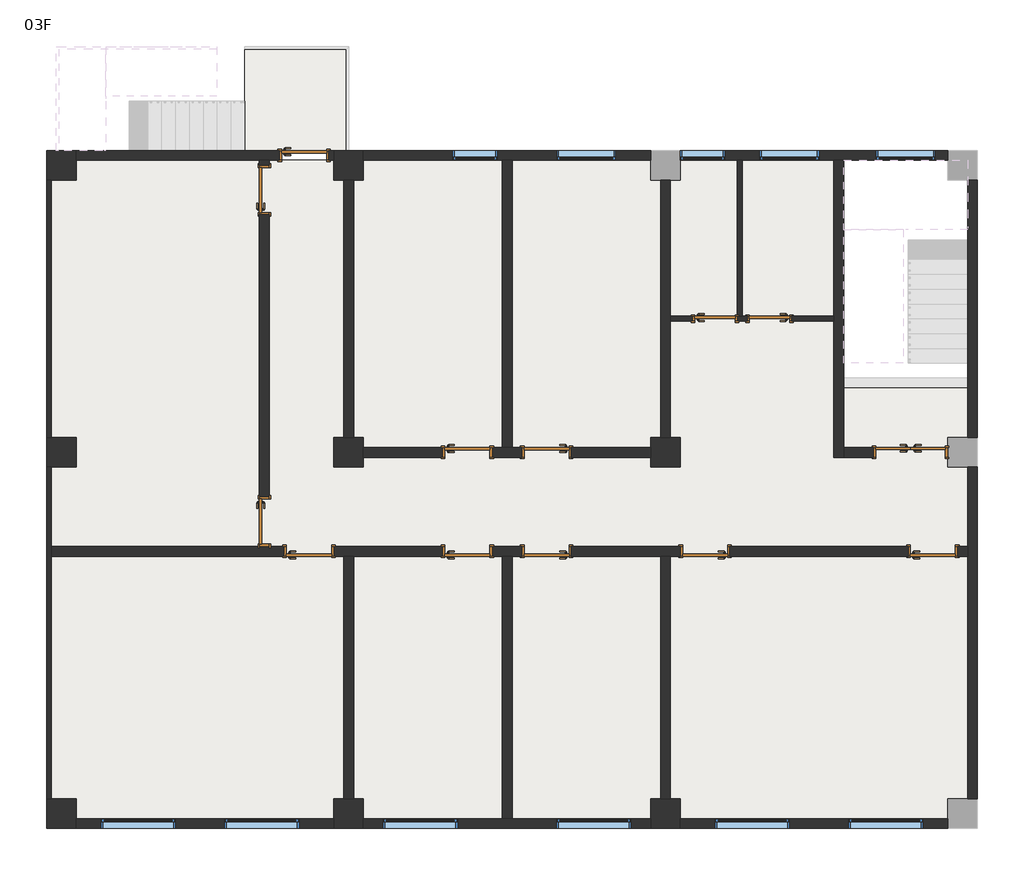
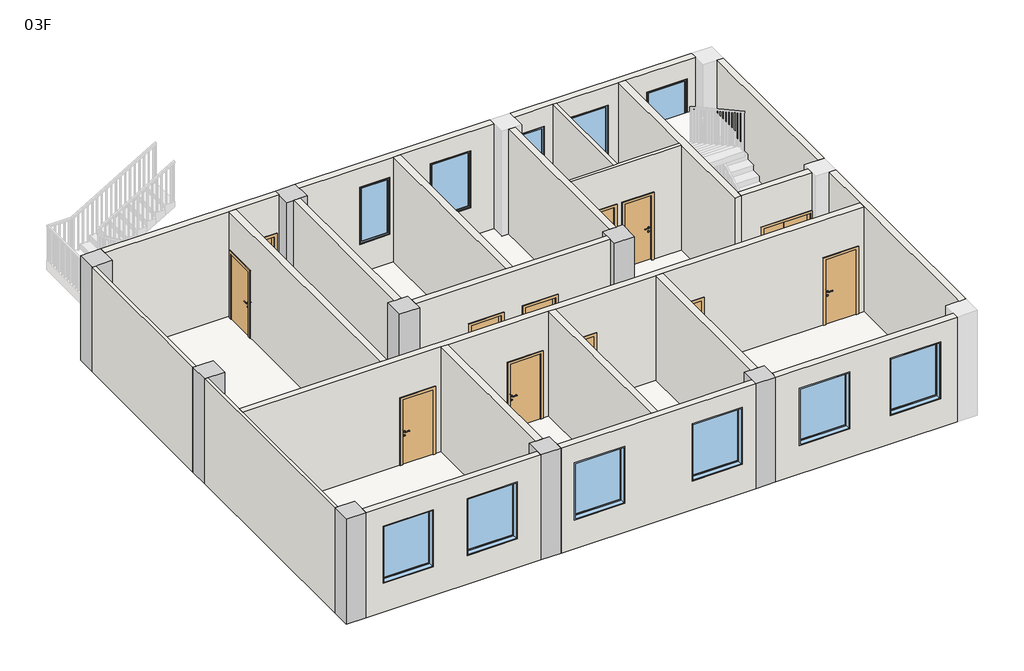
# One storey, part 1 of 3: 23 walls, 13 doors, 11 windows, 8 columns, 2 slabs.
"""IFC4 building model written with IfcOpenShell, lengths in millimetres."""

from ifc_helpers import new_model, si_unit, frame, origin, place, context, project, spatial, polyline, outline, extrude, faceted_brep, transform, mapped, element, save
from components import column_600_x_600mm_15ef50ab, m2_692f9d9b, m3_ab7da2a0, m3_c9bb6752, m4_a67fd2dd, m4_12d08f6f, c2_16925ed6, c4_3407baf4, c6_982aaf11

model = new_model("IFC4")

# Units and contexts
model_context = context("Model", 3, world=origin())
ifc_project = project(units=[si_unit("LENGTHUNIT", "METRE", prefix="MILLI")], contexts=[model_context])

# Site, building, storey
site = spatial("IfcSite", under=ifc_project)
building = spatial("IfcBuilding", under=site)
storey = spatial("IfcBuildingStorey", under=building, Name="03F", Elevation=7200.0)

# Columns
placement = place(None, origin())
column_600_x_600mm_shape = column_600_x_600mm_15ef50ab(model_context)
element("IfcColumn", 1, ObjectType="混凝土 - 矩形 - 柱 : 600 x 600mm", at=placement, inside=storey, context=model_context, shape_type="MappedRepresentation", body=[
    mapped(column_600_x_600mm_shape, transform((200.0, 13300.0, 0.0), x_axis=(1.0, 0.0, 0.0), y_axis=(0.0, 1.0, 0.0), z_axis=(0.0, 0.0, 1.0))),
])
element("IfcColumn", 2, ObjectType="混凝土 - 矩形 - 柱 : 600 x 600mm", at=placement, inside=storey, context=model_context, shape_type="MappedRepresentation", body=[
    mapped(column_600_x_600mm_shape, transform((6000.0, 13300.0, 0.0), x_axis=(1.0, 0.0, 0.0), y_axis=(0.0, 1.0, 0.0), z_axis=(0.0, 0.0, 1.0))),
])
element("IfcColumn", 3, ObjectType="混凝土 - 矩形 - 柱 : 600 x 600mm", at=placement, inside=storey, context=model_context, shape_type="MappedRepresentation", body=[
    mapped(column_600_x_600mm_shape, transform((200.0, 7500.0, 0.0), x_axis=(1.0, 0.0, 0.0), y_axis=(0.0, 1.0, 0.0), z_axis=(0.0, 0.0, 1.0))),
])
element("IfcColumn", 4, ObjectType="混凝土 - 矩形 - 柱 : 600 x 600mm", at=placement, inside=storey, context=model_context, shape_type="MappedRepresentation", body=[
    mapped(column_600_x_600mm_shape, transform((6000.0, 7500.0, 0.0), x_axis=(1.0, 0.0, 0.0), y_axis=(0.0, 1.0, 0.0), z_axis=(0.0, 0.0, 1.0))),
])
element("IfcColumn", 5, ObjectType="混凝土 - 矩形 - 柱 : 600 x 600mm", at=placement, inside=storey, context=model_context, shape_type="MappedRepresentation", body=[
    mapped(column_600_x_600mm_shape, transform((12400.0, 7500.0, 0.0), x_axis=(1.0, 0.0, 0.0), y_axis=(0.0, 1.0, 0.0), z_axis=(0.0, 0.0, 1.0))),
])
element("IfcColumn", 6, ObjectType="混凝土 - 矩形 - 柱 : 600 x 600mm", at=placement, inside=storey, context=model_context, shape_type="MappedRepresentation", body=[
    mapped(column_600_x_600mm_shape, transform((200.0, 200.0, 0.0), x_axis=(1.0, 0.0, 0.0), y_axis=(0.0, 1.0, 0.0), z_axis=(0.0, 0.0, 1.0))),
])
element("IfcColumn", 7, ObjectType="混凝土 - 矩形 - 柱 : 600 x 600mm", at=placement, inside=storey, context=model_context, shape_type="MappedRepresentation", body=[
    mapped(column_600_x_600mm_shape, transform((6000.0, 200.0, 0.0), x_axis=(1.0, 0.0, 0.0), y_axis=(0.0, 1.0, 0.0), z_axis=(0.0, 0.0, 1.0))),
])
element("IfcColumn", 8, ObjectType="混凝土 - 矩形 - 柱 : 600 x 600mm", at=placement, inside=storey, context=model_context, shape_type="MappedRepresentation", body=[
    mapped(column_600_x_600mm_shape, transform((12400.0, 200.0, 0.0), x_axis=(1.0, 0.0, 0.0), y_axis=(0.0, 1.0, 0.0), z_axis=(0.0, 0.0, 1.0))),
])

# Doors
m2_shape = m2_692f9d9b(model_context)
element("IfcDoor", 9, ObjectType="双面嵌板木门 1 : M2", at=placement, inside=storey, context=model_context, shape_type="MappedRepresentation", body=[
    mapped(m2_shape, transform((17350.0, 7500.0, 7200.0), x_axis=(1.0, 0.0, 0.0), y_axis=(0.0, 1.0, 0.0), z_axis=(0.0, 0.0, 1.0))),
])
m3_shape = m3_ab7da2a0(model_context)
element("IfcDoor", 10, ObjectType="单嵌板木门 1 : M3", at=placement, inside=storey, context=model_context, shape_type="MappedRepresentation", body=[
    mapped(m3_shape, transform((17800.0, 5500.0, 7200.0), x_axis=(1.0, 0.0, 0.0), y_axis=(0.0, 1.0, 0.0), z_axis=(0.0, 0.0, 1.0))),
])
element("IfcDoor", 11, ObjectType="单嵌板木门 1 : M3", at=placement, inside=storey, context=model_context, shape_type="MappedRepresentation", body=[
    mapped(m3_shape, transform((8400.0, 5500.0, 7200.0), x_axis=(1.0, 0.0, 0.0), y_axis=(0.0, 1.0, 0.0), z_axis=(0.0, 0.0, 1.0))),
])
element("IfcDoor", 12, ObjectType="单嵌板木门 1 : M3", at=placement, inside=storey, context=model_context, shape_type="MappedRepresentation", body=[
    mapped(m3_shape, transform((4300.0, 6100.0, 7200.0), x_axis=(0.0, -1.0, 0.0), y_axis=(1.0, 0.0, 0.0), z_axis=(0.0, 0.0, 1.0))),
])
element("IfcDoor", 13, ObjectType="单嵌板木门 1 : M3", at=placement, inside=storey, context=model_context, shape_type="MappedRepresentation", body=[
    mapped(m3_shape, transform((5200.0, 5500.0, 7200.0), x_axis=(1.0, 0.0, 0.0), y_axis=(0.0, 1.0, 0.0), z_axis=(0.0, 0.0, 1.0))),
])
element("IfcDoor", 14, ObjectType="单嵌板木门 1 : M3", at=placement, inside=storey, context=model_context, shape_type="MappedRepresentation", body=[
    mapped(m3_shape, transform((10000.0, 7500.0, 7200.0), x_axis=(-1.0, 0.0, 0.0), y_axis=(0.0, -1.0, 0.0), z_axis=(0.0, 0.0, 1.0))),
])
m3_2_shape = m3_c9bb6752(model_context)
element("IfcDoor", 15, ObjectType="单嵌板木门 1 : M3", at=placement, inside=storey, context=model_context, shape_type="MappedRepresentation", body=[
    mapped(m3_2_shape, transform((13200.0, 5500.0, 7200.0), x_axis=(-1.0, 0.0, 0.0), y_axis=(0.0, -1.0, 0.0), z_axis=(0.0, 0.0, 1.0))),
])
element("IfcDoor", 16, ObjectType="单嵌板木门 1 : M3", at=placement, inside=storey, context=model_context, shape_type="MappedRepresentation", body=[
    mapped(m3_2_shape, transform((10000.0, 5500.0, 7200.0), x_axis=(-1.0, 0.0, 0.0), y_axis=(0.0, -1.0, 0.0), z_axis=(0.0, 0.0, 1.0))),
])
element("IfcDoor", 17, ObjectType="单嵌板木门 1 : M3", at=placement, inside=storey, context=model_context, shape_type="MappedRepresentation", body=[
    mapped(m3_2_shape, transform((5100.0, 13500.0, 7200.0), x_axis=(1.0, 0.0, 0.0), y_axis=(0.0, 1.0, 0.0), z_axis=(0.0, 0.0, 1.0))),
])
element("IfcDoor", 18, ObjectType="单嵌板木门 1 : M3", at=placement, inside=storey, context=model_context, shape_type="MappedRepresentation", body=[
    mapped(m3_2_shape, transform((4300.0, 12800.0, 7200.0), x_axis=(0.0, 1.0, 0.0), y_axis=(-1.0, 0.0, 0.0), z_axis=(0.0, 0.0, 1.0))),
])
element("IfcDoor", 19, ObjectType="单嵌板木门 1 : M3", at=placement, inside=storey, context=model_context, shape_type="MappedRepresentation", body=[
    mapped(m3_2_shape, transform((8400.0, 7500.0, 7200.0), x_axis=(1.0, 0.0, 0.0), y_axis=(0.0, 1.0, 0.0), z_axis=(0.0, 0.0, 1.0))),
])
m4_shape = m4_a67fd2dd(model_context)
element("IfcDoor", 20, ObjectType="单嵌板木门 1 : M4", at=placement, inside=storey, context=model_context, shape_type="MappedRepresentation", body=[
    mapped(m4_shape, transform((13400.0, 10200.0, 7200.0), x_axis=(1.0, 0.0, 0.0), y_axis=(0.0, 1.0, 0.0), z_axis=(0.0, 0.0, 1.0))),
])
m4_2_shape = m4_12d08f6f(model_context)
element("IfcDoor", 21, ObjectType="单嵌板木门 1 : M4", at=placement, inside=storey, context=model_context, shape_type="MappedRepresentation", body=[
    mapped(m4_2_shape, transform((14500.0, 10200.0, 7200.0), x_axis=(-1.0, 0.0, 0.0), y_axis=(0.0, -1.0, 0.0), z_axis=(0.0, 0.0, 1.0))),
])

# Slabs
element("IfcSlab", 22, ObjectType="100mm厚钢筋混凝土", at=placement, inside=storey, context=model_context, shape_type="SweptSolid", body=[
    extrude(outline(polyline([(15800.0, 13400.0), (15800.0, 8800.0), (18500.0, 8800.0), (18500.0, 100.0), (0.0, 100.0), (0.0, 13400.0), (15800.0, 13400.0)])), frame((0.0, 0.0, 7100.0), z_axis=(0.0, 0.0, 1.0), x_axis=(1.0, 0.0, 0.0)), (0.0, 0.0, 1.0), 100.0),
])
element("IfcSlab", 23, ObjectType="常规 - 165mm", at=placement, inside=storey, context=model_context, shape_type="SweptSolid", body=[
    extrude(outline(polyline([(3900.0, 13600.0), (3900.0, 15700.0), (6000.0, 15700.0), (6000.0, 13600.0), (3900.0, 13600.0)])), frame((0.0, 0.0, 7035.0), z_axis=(0.0, 0.0, 1.0), x_axis=(1.0, 0.0, 0.0)), (0.0, 0.0, 1.0), 165.0),
])

# Walls
element("IfcWall", 24, ObjectType="200mm厚加气混凝土砌块", at=placement, inside=storey, context=model_context, shape_type="Brep", body=[
    faceted_brep([(5700.0, 13400.0, 7200.0), (5700.0, 13400.0, 10500.0), (4400.0, 13400.0, 10500.0), (4200.0, 13400.0, 10500.0), (500.0, 13400.0, 10500.0), (500.0, 13400.0, 7200.0), (4200.0, 13400.0, 7200.0), (4400.0, 13400.0, 7200.0), (4600.0, 13400.0, 7200.0), (4600.0, 13400.0, 9300.0), (5600.0, 13400.0, 9300.0), (5600.0, 13400.0, 7200.0), (5700.0, 13600.0, 10500.0), (5700.0, 13600.0, 7200.0), (5600.0, 13600.0, 7200.0), (5600.0, 13600.0, 9300.0), (4600.0, 13600.0, 9300.0), (4600.0, 13600.0, 7200.0), (500.0, 13600.0, 7200.0), (500.0, 13600.0, 10500.0)], [[[0, 1, 2, 3, 4, 5, 6, 7, 8, 9, 10, 11]], [[12, 13, 14, 15, 16, 17, 18, 19]], [[13, 0, 11, 14]], [[5, 18, 17, 8, 7, 6]], [[1, 0, 13, 12]], [[4, 3, 2, 1, 12, 19]], [[5, 4, 19, 18]], [[10, 15, 14, 11]], [[15, 10, 9, 16]], [[16, 9, 8, 17]]]),
])
element("IfcWall", 25, ObjectType="200mm厚加气混凝土砌块", at=placement, inside=storey, context=model_context, shape_type="Brep", body=[
    faceted_brep([(6300.0, 13400.0, 7200.0), (9100.0, 13400.0, 7200.0), (9300.0, 13400.0, 7200.0), (12100.0, 13400.0, 7200.0), (12100.0, 13400.0, 10500.0), (9300.0, 13400.0, 10500.0), (9100.0, 13400.0, 10500.0), (6300.0, 13400.0, 10500.0), (11400.0, 13400.0, 8100.0), (10200.0, 13400.0, 8100.0), (10200.0, 13400.0, 9900.0), (11400.0, 13400.0, 9900.0), (9000.0, 13400.0, 8100.0), (8100.0, 13400.0, 8100.0), (8100.0, 13400.0, 9900.0), (9000.0, 13400.0, 9900.0), (6300.0, 13600.0, 7200.0), (6300.0, 13600.0, 10500.0), (12100.0, 13600.0, 10500.0), (12100.0, 13600.0, 7200.0), (11400.0, 13600.0, 8100.0), (11400.0, 13600.0, 9900.0), (10200.0, 13600.0, 9900.0), (10200.0, 13600.0, 8100.0), (9000.0, 13600.0, 8100.0), (9000.0, 13600.0, 9900.0), (8100.0, 13600.0, 9900.0), (8100.0, 13600.0, 8100.0)], [[[0, 1, 2, 3, 4, 5, 6, 7], [8, 9, 10, 11], [12, 13, 14, 15]], [[16, 17, 18, 19], [20, 21, 22, 23], [24, 25, 26, 27]], [[3, 2, 1, 0, 16, 19]], [[4, 3, 19, 18]], [[7, 6, 5, 4, 18, 17]], [[0, 7, 17, 16]], [[21, 20, 8, 11]], [[22, 21, 11, 10]], [[23, 22, 10, 9]], [[20, 23, 9, 8]], [[25, 24, 12, 15]], [[26, 25, 15, 14]], [[27, 26, 14, 13]], [[24, 27, 13, 12]]]),
])
element("IfcWall", 26, ObjectType="200mm厚加气混凝土砌块", at=placement, inside=storey, context=model_context, shape_type="Brep", body=[
    faceted_brep([(13600.0, 13400.0, 8100.0), (12700.0, 13400.0, 8100.0), (12700.0, 13400.0, 7200.0), (13850.0, 13400.0, 7200.0), (13950.0, 13400.0, 7200.0), (15800.0, 13400.0, 7200.0), (16000.0, 13400.0, 7200.0), (18100.0, 13400.0, 7200.0), (18100.0, 13400.0, 10500.0), (16000.0, 13400.0, 10500.0), (15800.0, 13400.0, 10500.0), (13950.0, 13400.0, 10500.0), (13850.0, 13400.0, 10500.0), (12700.0, 13400.0, 10500.0), (12700.0, 13400.0, 9900.0), (13600.0, 13400.0, 9900.0), (17850.0, 13400.0, 8100.0), (16650.0, 13400.0, 8100.0), (16650.0, 13400.0, 9900.0), (17850.0, 13400.0, 9900.0), (15500.0, 13400.0, 8100.0), (14300.0, 13400.0, 8100.0), (14300.0, 13400.0, 9900.0), (15500.0, 13400.0, 9900.0), (12700.0, 13600.0, 7200.0), (12700.0, 13600.0, 8100.0), (13600.0, 13600.0, 8100.0), (13600.0, 13600.0, 9900.0), (12700.0, 13600.0, 9900.0), (12700.0, 13600.0, 10500.0), (18100.0, 13600.0, 10500.0), (18100.0, 13600.0, 7200.0), (17850.0, 13600.0, 8100.0), (17850.0, 13600.0, 9900.0), (16650.0, 13600.0, 9900.0), (16650.0, 13600.0, 8100.0), (15500.0, 13600.0, 8100.0), (15500.0, 13600.0, 9900.0), (14300.0, 13600.0, 9900.0), (14300.0, 13600.0, 8100.0)], [[[0, 1, 2, 3, 4, 5, 6, 7, 8, 9, 10, 11, 12, 13, 14, 15], [16, 17, 18, 19], [20, 21, 22, 23]], [[24, 25, 26, 27, 28, 29, 30, 31], [32, 33, 34, 35], [36, 37, 38, 39]], [[7, 6, 5, 4, 3, 2, 24, 31]], [[8, 7, 31, 30]], [[13, 12, 11, 10, 9, 8, 30, 29]], [[14, 13, 29, 28]], [[2, 1, 25, 24]], [[33, 32, 16, 19]], [[34, 33, 19, 18]], [[35, 34, 18, 17]], [[32, 35, 17, 16]], [[37, 36, 20, 23]], [[38, 37, 23, 22]], [[39, 38, 22, 21]], [[36, 39, 21, 20]], [[27, 26, 0, 15]], [[28, 27, 15, 14]], [[26, 25, 1, 0]]]),
])
element("IfcWall", 27, ObjectType="200mm厚加气混凝土砌块", at=placement, inside=storey, context=model_context, shape_type="SweptSolid", body=[
    extrude(outline(polyline([(18500.0, 7800.0), (18500.0, 13000.0), (18700.0, 13000.0), (18700.0, 7800.0), (18500.0, 7800.0)])), frame((0.0, 0.0, 7200.0), z_axis=(0.0, 0.0, 1.0), x_axis=(1.0, 0.0, 0.0)), (0.0, 0.0, 1.0), 3300.0),
])
element("IfcWall", 28, ObjectType="200mm厚加气混凝土砌块", at=placement, inside=storey, context=model_context, shape_type="Brep", body=[
    faceted_brep([(18500.0, 7200.0, 7200.0), (18500.0, 5600.0, 7200.0), (18500.0, 5400.0, 7200.0), (18500.0, 500.0, 7200.0), (18500.0, 500.0, 10500.0), (18500.0, 5400.0, 10500.0), (18500.0, 5600.0, 10500.0), (18500.0, 7200.0, 10500.0), (18700.0, 7200.0, 7200.0), (18700.0, 7200.0, 10500.0), (18700.0, 500.0, 10500.0), (18700.0, 500.0, 7200.0)], [[[0, 1, 2, 3, 4, 5, 6, 7]], [[8, 9, 10, 11]], [[3, 2, 1, 0, 8, 11]], [[4, 3, 11, 10]], [[7, 6, 5, 4, 10, 9]], [[0, 7, 9, 8]]]),
])
element("IfcWall", 29, ObjectType="200mm厚加气混凝土砌块", at=placement, inside=storey, context=model_context, shape_type="SweptSolid", body=[
    extrude(outline(polyline([(7200.0, 18100.0), (10500.0, 18100.0), (10500.0, 12700.0), (7200.0, 12700.0), (7200.0, 18100.0)]), holes=[polyline([(8100.0, 16100.0), (9900.0, 16100.0), (9900.0, 17600.0), (8100.0, 17600.0), (8100.0, 16100.0)]), polyline([(8100.0, 13400.0), (9900.0, 13400.0), (9900.0, 14900.0), (8100.0, 14900.0), (8100.0, 13400.0)])]), frame((0.0, -100.0, 0.0), z_axis=(0.0, 1.0, 0.0), x_axis=(0.0, 0.0, 1.0)), (0.0, 0.0, 1.0), 200.0),
])
element("IfcWall", 30, ObjectType="200mm厚加气混凝土砌块", at=placement, inside=storey, context=model_context, shape_type="Brep", body=[
    faceted_brep([(12100.0, 100.0, 7200.0), (9300.0, 100.0, 7200.0), (9100.0, 100.0, 7200.0), (6300.0, 100.0, 7200.0), (6300.0, 100.0, 10500.0), (9100.0, 100.0, 10500.0), (9300.0, 100.0, 10500.0), (12100.0, 100.0, 10500.0), (6700.0, 100.0, 8100.0), (8200.0, 100.0, 8100.0), (8200.0, 100.0, 9900.0), (6700.0, 100.0, 9900.0), (10200.0, 100.0, 8100.0), (11700.0, 100.0, 8100.0), (11700.0, 100.0, 9900.0), (10200.0, 100.0, 9900.0), (12100.0, -100.0, 7200.0), (12100.0, -100.0, 10500.0), (6300.0, -100.0, 10500.0), (6300.0, -100.0, 7200.0), (6700.0, -100.0, 8100.0), (6700.0, -100.0, 9900.0), (8200.0, -100.0, 9900.0), (8200.0, -100.0, 8100.0), (10200.0, -100.0, 8100.0), (10200.0, -100.0, 9900.0), (11700.0, -100.0, 9900.0), (11700.0, -100.0, 8100.0)], [[[0, 1, 2, 3, 4, 5, 6, 7], [8, 9, 10, 11], [12, 13, 14, 15]], [[16, 17, 18, 19], [20, 21, 22, 23], [24, 25, 26, 27]], [[3, 2, 1, 0, 16, 19]], [[4, 3, 19, 18]], [[7, 6, 5, 4, 18, 17]], [[0, 7, 17, 16]], [[21, 20, 8, 11]], [[22, 21, 11, 10]], [[23, 22, 10, 9]], [[20, 23, 9, 8]], [[25, 24, 12, 15]], [[26, 25, 15, 14]], [[27, 26, 14, 13]], [[24, 27, 13, 12]]]),
])
element("IfcWall", 31, ObjectType="200mm厚加气混凝土砌块", at=placement, inside=storey, context=model_context, shape_type="SweptSolid", body=[
    extrude(outline(polyline([(7200.0, 5700.0), (10500.0, 5700.0), (10500.0, 500.0), (7200.0, 500.0), (7200.0, 5700.0)]), holes=[polyline([(8100.0, 1000.0), (9900.0, 1000.0), (9900.0, 2500.0), (8100.0, 2500.0), (8100.0, 1000.0)]), polyline([(8100.0, 3500.0), (9900.0, 3500.0), (9900.0, 5000.0), (8100.0, 5000.0), (8100.0, 3500.0)])]), frame((0.0, -100.0, 0.0), z_axis=(0.0, 1.0, 0.0), x_axis=(0.0, 0.0, 1.0)), (0.0, 0.0, 1.0), 200.0),
])
element("IfcWall", 32, ObjectType="100mm厚加气混凝土砌块", at=placement, inside=storey, context=model_context, shape_type="Brep", body=[
    faceted_brep([(0.0, 500.0, 7200.0), (0.0, 5400.0, 7200.0), (0.0, 5600.0, 7200.0), (0.0, 7200.0, 7200.0), (0.0, 7200.0, 10500.0), (0.0, 5600.0, 10500.0), (0.0, 5400.0, 10500.0), (0.0, 500.0, 10500.0), (-100.0, 500.0, 7200.0), (-100.0, 500.0, 10500.0), (-100.0, 7200.0, 10500.0), (-100.0, 7200.0, 7200.0)], [[[0, 1, 2, 3, 4, 5, 6, 7]], [[8, 9, 10, 11]], [[3, 2, 1, 0, 8, 11]], [[4, 3, 11, 10]], [[7, 6, 5, 4, 10, 9]], [[0, 7, 9, 8]]]),
])
element("IfcWall", 33, ObjectType="100mm厚加气混凝土砌块", at=placement, inside=storey, context=model_context, shape_type="SweptSolid", body=[
    extrude(outline(polyline([(0.0, 13000.0), (0.0, 7800.0), (-100.0, 7800.0), (-100.0, 13000.0), (0.0, 13000.0)])), frame((0.0, 0.0, 7200.0), z_axis=(0.0, 0.0, 1.0), x_axis=(1.0, 0.0, 0.0)), (0.0, 0.0, 1.0), 3300.0),
])
element("IfcWall", 34, ObjectType="200mm厚加气混凝土砌块", at=placement, inside=storey, context=model_context, shape_type="SweptSolid", body=[
    extrude(outline(polyline([(5900.0, 7800.0), (5900.0, 13000.0), (6100.0, 13000.0), (6100.0, 7800.0), (5900.0, 7800.0)])), frame((0.0, 0.0, 7200.0), z_axis=(0.0, 0.0, 1.0), x_axis=(1.0, 0.0, 0.0)), (0.0, 0.0, 1.0), 3300.0),
])
element("IfcWall", 35, ObjectType="200mm厚加气混凝土砌块", at=placement, inside=storey, context=model_context, shape_type="SweptSolid", body=[
    extrude(outline(polyline([(5900.0, 500.0), (5900.0, 5400.0), (6100.0, 5400.0), (6100.0, 500.0), (5900.0, 500.0)])), frame((0.0, 0.0, 7200.0), z_axis=(0.0, 0.0, 1.0), x_axis=(1.0, 0.0, 0.0)), (0.0, 0.0, 1.0), 3300.0),
])
element("IfcWall", 36, ObjectType="200mm厚加气混凝土砌块", at=placement, inside=storey, context=model_context, shape_type="Brep", body=[
    faceted_brep([(18500.0, 5400.0, 10500.0), (12500.0, 5400.0, 10500.0), (12300.0, 5400.0, 10500.0), (9300.0, 5400.0, 10500.0), (9100.0, 5400.0, 10500.0), (6100.0, 5400.0, 10500.0), (5900.0, 5400.0, 10500.0), (0.0, 5400.0, 10500.0), (0.0, 5400.0, 7200.0), (4700.0, 5400.0, 7200.0), (4700.0, 5400.0, 9300.0), (5700.0, 5400.0, 9300.0), (5700.0, 5400.0, 7200.0), (5900.0, 5400.0, 7200.0), (6100.0, 5400.0, 7200.0), (7900.0, 5400.0, 7200.0), (7900.0, 5400.0, 9300.0), (8900.0, 5400.0, 9300.0), (8900.0, 5400.0, 7200.0), (9100.0, 5400.0, 7200.0), (9300.0, 5400.0, 7200.0), (9500.0, 5400.0, 7200.0), (9500.0, 5400.0, 9300.0), (10500.0, 5400.0, 9300.0), (10500.0, 5400.0, 7200.0), (12300.0, 5400.0, 7200.0), (12500.0, 5400.0, 7200.0), (12700.0, 5400.0, 7200.0), (12700.0, 5400.0, 9300.0), (13700.0, 5400.0, 9300.0), (13700.0, 5400.0, 7200.0), (17300.0, 5400.0, 7200.0), (17300.0, 5400.0, 9300.0), (18300.0, 5400.0, 9300.0), (18300.0, 5400.0, 7200.0), (18500.0, 5400.0, 7200.0), (0.0, 5600.0, 10500.0), (4200.0, 5600.0, 10500.0), (4400.0, 5600.0, 10500.0), (18500.0, 5600.0, 10500.0), (18500.0, 5600.0, 7200.0), (18300.0, 5600.0, 7200.0), (18300.0, 5600.0, 9300.0), (17300.0, 5600.0, 9300.0), (17300.0, 5600.0, 7200.0), (13700.0, 5600.0, 7200.0), (13700.0, 5600.0, 9300.0), (12700.0, 5600.0, 9300.0), (12700.0, 5600.0, 7200.0), (10500.0, 5600.0, 7200.0), (10500.0, 5600.0, 9300.0), (9500.0, 5600.0, 9300.0), (9500.0, 5600.0, 7200.0), (8900.0, 5600.0, 7200.0), (8900.0, 5600.0, 9300.0), (7900.0, 5600.0, 9300.0), (7900.0, 5600.0, 7200.0), (5700.0, 5600.0, 7200.0), (5700.0, 5600.0, 9300.0), (4700.0, 5600.0, 9300.0), (4700.0, 5600.0, 7200.0), (0.0, 5600.0, 7200.0)], [[[0, 1, 2, 3, 4, 5, 6, 7, 8, 9, 10, 11, 12, 13, 14, 15, 16, 17, 18, 19, 20, 21, 22, 23, 24, 25, 26, 27, 28, 29, 30, 31, 32, 33, 34, 35]], [[36, 37, 38, 39, 40, 41, 42, 43, 44, 45, 46, 47, 48, 49, 50, 51, 52, 53, 54, 55, 56, 57, 58, 59, 60, 61]], [[40, 35, 34, 41]], [[8, 61, 60, 9]], [[44, 31, 30, 45]], [[48, 27, 26, 25, 24, 49]], [[52, 21, 20, 19, 18, 53]], [[56, 15, 14, 13, 12, 57]], [[7, 6, 5, 4, 3, 2, 1, 0, 39, 38, 37, 36]], [[0, 35, 40, 39]], [[8, 7, 36, 61]], [[33, 42, 41, 34]], [[42, 33, 32, 43]], [[43, 32, 31, 44]], [[47, 28, 27, 48]], [[28, 47, 46, 29]], [[29, 46, 45, 30]], [[51, 22, 21, 52]], [[22, 51, 50, 23]], [[23, 50, 49, 24]], [[17, 54, 53, 18]], [[54, 17, 16, 55]], [[55, 16, 15, 56]], [[11, 58, 57, 12]], [[58, 11, 10, 59]], [[59, 10, 9, 60]]]),
])
element("IfcWall", 37, ObjectType="200mm厚加气混凝土砌块", at=placement, inside=storey, context=model_context, shape_type="SweptSolid", body=[
    extrude(outline(polyline([(12300.0, 500.0), (12300.0, 5400.0), (12500.0, 5400.0), (12500.0, 500.0), (12300.0, 500.0)])), frame((0.0, 0.0, 7200.0), z_axis=(0.0, 0.0, 1.0), x_axis=(1.0, 0.0, 0.0)), (0.0, 0.0, 1.0), 3300.0),
])
element("IfcWall", 38, ObjectType="200mm厚加气混凝土砌块", at=placement, inside=storey, context=model_context, shape_type="Brep", body=[
    faceted_brep([(12300.0, 13000.0, 7200.0), (12300.0, 7800.0, 7200.0), (12300.0, 7800.0, 10500.0), (12300.0, 13000.0, 10500.0), (12500.0, 13000.0, 7200.0), (12500.0, 13000.0, 10500.0), (12500.0, 10250.0, 10500.0), (12500.0, 10150.0, 10500.0), (12500.0, 7800.0, 10500.0), (12500.0, 7800.0, 7200.0), (12500.0, 10150.0, 7200.0), (12500.0, 10250.0, 7200.0)], [[[0, 1, 2, 3]], [[4, 5, 6, 7, 8, 9, 10, 11]], [[1, 0, 4, 11, 10, 9]], [[2, 1, 9, 8]], [[3, 2, 8, 7, 6, 5]], [[0, 3, 5, 4]]]),
])
element("IfcWall", 39, ObjectType="200mm厚加气混凝土砌块", at=placement, inside=storey, context=model_context, shape_type="Brep", body=[
    faceted_brep([(15800.0, 13400.0, 7200.0), (15800.0, 10250.0, 7200.0), (15800.0, 10150.0, 7200.0), (15800.0, 7400.0, 7200.0), (15800.0, 7400.0, 10500.0), (15800.0, 10150.0, 10500.0), (15800.0, 10250.0, 10500.0), (15800.0, 13400.0, 10500.0), (16000.0, 13400.0, 7200.0), (16000.0, 13400.0, 10500.0), (16000.0, 7600.0, 10500.0), (16000.0, 7400.0, 10500.0), (16000.0, 7400.0, 7200.0), (16000.0, 7600.0, 7200.0)], [[[0, 1, 2, 3, 4, 5, 6, 7]], [[8, 9, 10, 11, 12, 13]], [[3, 2, 1, 0, 8, 13, 12]], [[7, 6, 5, 4, 11, 10, 9]], [[0, 7, 9, 8]], [[4, 3, 12, 11]]]),
])
element("IfcWall", 40, ObjectType="200mm厚加气混凝土砌块", at=placement, inside=storey, context=model_context, shape_type="SweptSolid", body=[
    extrude(outline(polyline([(10500.0, 18100.0), (10500.0, 16000.0), (7200.0, 16000.0), (7200.0, 16600.0), (9300.0, 16600.0), (9300.0, 18100.0), (10500.0, 18100.0)])), frame((0.0, 7400.0, 0.0), z_axis=(0.0, 1.0, 0.0), x_axis=(0.0, 0.0, 1.0)), (0.0, 0.0, 1.0), 200.0),
])
element("IfcWall", 41, ObjectType="100mm厚加气混凝土砌块", at=placement, inside=storey, context=model_context, shape_type="Brep", body=[
    faceted_brep([(15800.0, 10150.0, 10500.0), (12500.0, 10150.0, 10500.0), (12500.0, 10150.0, 7200.0), (12950.0, 10150.0, 7200.0), (12950.0, 10150.0, 9300.0), (13850.0, 10150.0, 9300.0), (13850.0, 10150.0, 7200.0), (14050.0, 10150.0, 7200.0), (14050.0, 10150.0, 9300.0), (14950.0, 10150.0, 9300.0), (14950.0, 10150.0, 7200.0), (15800.0, 10150.0, 7200.0), (12500.0, 10250.0, 10500.0), (13850.0, 10250.0, 10500.0), (13950.0, 10250.0, 10500.0), (15800.0, 10250.0, 10500.0), (15800.0, 10250.0, 7200.0), (14950.0, 10250.0, 7200.0), (14950.0, 10250.0, 9300.0), (14050.0, 10250.0, 9300.0), (14050.0, 10250.0, 7200.0), (13950.0, 10250.0, 7200.0), (13850.0, 10250.0, 7200.0), (13850.0, 10250.0, 9300.0), (12950.0, 10250.0, 9300.0), (12950.0, 10250.0, 7200.0), (12500.0, 10250.0, 7200.0)], [[[0, 1, 2, 3, 4, 5, 6, 7, 8, 9, 10, 11]], [[12, 13, 14, 15, 16, 17, 18, 19, 20, 21, 22, 23, 24, 25, 26]], [[2, 26, 25, 3]], [[16, 11, 10, 17]], [[20, 7, 6, 22, 21]], [[1, 0, 15, 14, 13, 12]], [[2, 1, 12, 26]], [[0, 11, 16, 15]], [[19, 8, 7, 20]], [[8, 19, 18, 9]], [[9, 18, 17, 10]], [[5, 23, 22, 6]], [[23, 5, 4, 24]], [[24, 4, 3, 25]]]),
])
element("IfcWall", 42, ObjectType="100mm厚加气混凝土砌块", at=placement, inside=storey, context=model_context, shape_type="SweptSolid", body=[
    extrude(outline(polyline([(13850.0, 10250.0), (13850.0, 13400.0), (13950.0, 13400.0), (13950.0, 10250.0), (13850.0, 10250.0)])), frame((0.0, 0.0, 7200.0), z_axis=(0.0, 0.0, 1.0), x_axis=(1.0, 0.0, 0.0)), (0.0, 0.0, 1.0), 3300.0),
])
element("IfcWall", 43, ObjectType="200mm厚加气混凝土砌块", at=placement, inside=storey, context=model_context, shape_type="SweptSolid", body=[
    extrude(outline(polyline([(5600.0, 10500.0), (13400.0, 10500.0), (13400.0, 7200.0), (13300.0, 7200.0), (13300.0, 9300.0), (12300.0, 9300.0), (12300.0, 7200.0), (6600.0, 7200.0), (6600.0, 9300.0), (5600.0, 9300.0), (5600.0, 10500.0)])), frame((4200.0, 0.0, 0.0), z_axis=(1.0, 0.0, 0.0), x_axis=(0.0, 1.0, 0.0)), (0.0, 0.0, 1.0), 200.0),
])
element("IfcWall", 44, ObjectType="200mm厚加气混凝土砌块", at=placement, inside=storey, context=model_context, shape_type="SweptSolid", body=[
    extrude(outline(polyline([(9100.0, 100.0), (9100.0, 5400.0), (9300.0, 5400.0), (9300.0, 100.0), (9100.0, 100.0)])), frame((0.0, 0.0, 7200.0), z_axis=(0.0, 0.0, 1.0), x_axis=(1.0, 0.0, 0.0)), (0.0, 0.0, 1.0), 3300.0),
])
element("IfcWall", 45, ObjectType="200mm厚加气混凝土砌块", at=placement, inside=storey, context=model_context, shape_type="Brep", body=[
    faceted_brep([(12100.0, 7400.0, 7200.0), (12100.0, 7400.0, 10500.0), (6300.0, 7400.0, 10500.0), (6300.0, 7400.0, 7200.0), (7900.0, 7400.0, 7200.0), (7900.0, 7400.0, 9300.0), (8900.0, 7400.0, 9300.0), (8900.0, 7400.0, 7200.0), (9500.0, 7400.0, 7200.0), (9500.0, 7400.0, 9300.0), (10500.0, 7400.0, 9300.0), (10500.0, 7400.0, 7200.0), (12100.0, 7600.0, 10500.0), (12100.0, 7600.0, 7200.0), (10500.0, 7600.0, 7200.0), (10500.0, 7600.0, 9300.0), (9500.0, 7600.0, 9300.0), (9500.0, 7600.0, 7200.0), (9300.0, 7600.0, 7200.0), (9100.0, 7600.0, 7200.0), (8900.0, 7600.0, 7200.0), (8900.0, 7600.0, 9300.0), (7900.0, 7600.0, 9300.0), (7900.0, 7600.0, 7200.0), (6300.0, 7600.0, 7200.0), (6300.0, 7600.0, 10500.0), (9100.0, 7600.0, 10500.0), (9300.0, 7600.0, 10500.0)], [[[0, 1, 2, 3, 4, 5, 6, 7, 8, 9, 10, 11]], [[12, 13, 14, 15, 16, 17, 18, 19, 20, 21, 22, 23, 24, 25, 26, 27]], [[13, 0, 11, 14]], [[3, 24, 23, 4]], [[7, 20, 19, 18, 17, 8]], [[1, 0, 13, 12]], [[2, 1, 12, 27, 26, 25]], [[3, 2, 25, 24]], [[6, 21, 20, 7]], [[21, 6, 5, 22]], [[22, 5, 4, 23]], [[16, 9, 8, 17]], [[9, 16, 15, 10]], [[10, 15, 14, 11]]]),
])
element("IfcWall", 46, ObjectType="200mm厚加气混凝土砌块", at=placement, inside=storey, context=model_context, shape_type="SweptSolid", body=[
    extrude(outline(polyline([(9300.0, 13400.0), (9300.0, 7600.0), (9100.0, 7600.0), (9100.0, 13400.0), (9300.0, 13400.0)])), frame((0.0, 0.0, 7200.0), z_axis=(0.0, 0.0, 1.0), x_axis=(1.0, 0.0, 0.0)), (0.0, 0.0, 1.0), 3300.0),
])

# Windows
c2_shape = c2_16925ed6(model_context)
element("IfcWindow", 47, ObjectType="固定 : C2", at=placement, inside=storey, context=model_context, shape_type="MappedRepresentation", body=[
    mapped(c2_shape, transform((10950.0, -13.0, 7200.0), x_axis=(1.0, 0.0, 0.0), y_axis=(0.0, 1.0, 0.0), z_axis=(0.0, 0.0, 1.0))),
])
element("IfcWindow", 48, ObjectType="固定 : C2", at=placement, inside=storey, context=model_context, shape_type="MappedRepresentation", body=[
    mapped(c2_shape, transform((7450.0, -13.0, 7200.0), x_axis=(1.0, 0.0, 0.0), y_axis=(0.0, 1.0, 0.0), z_axis=(0.0, 0.0, 1.0))),
])
element("IfcWindow", 49, ObjectType="固定 : C2", at=placement, inside=storey, context=model_context, shape_type="MappedRepresentation", body=[
    mapped(c2_shape, transform((4250.0, -13.0, 7200.0), x_axis=(1.0, 0.0, 0.0), y_axis=(0.0, 1.0, 0.0), z_axis=(0.0, 0.0, 1.0))),
])
element("IfcWindow", 50, ObjectType="固定 : C2", at=placement, inside=storey, context=model_context, shape_type="MappedRepresentation", body=[
    mapped(c2_shape, transform((1750.0, -13.0, 7200.0), x_axis=(1.0, 0.0, 0.0), y_axis=(0.0, 1.0, 0.0), z_axis=(0.0, 0.0, 1.0))),
])
element("IfcWindow", 51, ObjectType="固定 : C2", at=placement, inside=storey, context=model_context, shape_type="MappedRepresentation", body=[
    mapped(c2_shape, transform((14150.0, -13.0, 7200.0), x_axis=(1.0, 0.0, 0.0), y_axis=(0.0, 1.0, 0.0), z_axis=(0.0, 0.0, 1.0))),
])
element("IfcWindow", 52, ObjectType="固定 : C2", at=placement, inside=storey, context=model_context, shape_type="MappedRepresentation", body=[
    mapped(c2_shape, transform((16850.0, -13.0, 7200.0), x_axis=(1.0, 0.0, 0.0), y_axis=(0.0, 1.0, 0.0), z_axis=(0.0, 0.0, 1.0))),
])
c4_shape = c4_3407baf4(model_context)
element("IfcWindow", 53, ObjectType="固定 : C4", at=placement, inside=storey, context=model_context, shape_type="MappedRepresentation", body=[
    mapped(c4_shape, transform((14900.0, 13513.0, 7200.0), x_axis=(-1.0, 0.0, 0.0), y_axis=(0.0, -1.0, 0.0), z_axis=(0.0, 0.0, 1.0))),
])
element("IfcWindow", 54, ObjectType="固定 : C4", at=placement, inside=storey, context=model_context, shape_type="MappedRepresentation", body=[
    mapped(c4_shape, transform((17250.0, 13513.0, 7200.0), x_axis=(-1.0, 0.0, 0.0), y_axis=(0.0, -1.0, 0.0), z_axis=(0.0, 0.0, 1.0))),
])
element("IfcWindow", 55, ObjectType="固定 : C4", at=placement, inside=storey, context=model_context, shape_type="MappedRepresentation", body=[
    mapped(c4_shape, transform((10800.0, 13513.0, 7200.0), x_axis=(-1.0, 0.0, 0.0), y_axis=(0.0, -1.0, 0.0), z_axis=(0.0, 0.0, 1.0))),
])
c6_shape = c6_982aaf11(model_context)
element("IfcWindow", 56, ObjectType="固定 : C6", at=placement, inside=storey, context=model_context, shape_type="MappedRepresentation", body=[
    mapped(c6_shape, transform((8550.0, 13513.0, 7200.0), x_axis=(-1.0, 0.0, 0.0), y_axis=(0.0, -1.0, 0.0), z_axis=(0.0, 0.0, 1.0))),
])
element("IfcWindow", 57, ObjectType="固定 : C6", at=placement, inside=storey, context=model_context, shape_type="MappedRepresentation", body=[
    mapped(c6_shape, transform((13150.0, 13513.0, 7200.0), x_axis=(-1.0, 0.0, 0.0), y_axis=(0.0, -1.0, 0.0), z_axis=(0.0, 0.0, 1.0))),
])

save(model, "model.ifc")
